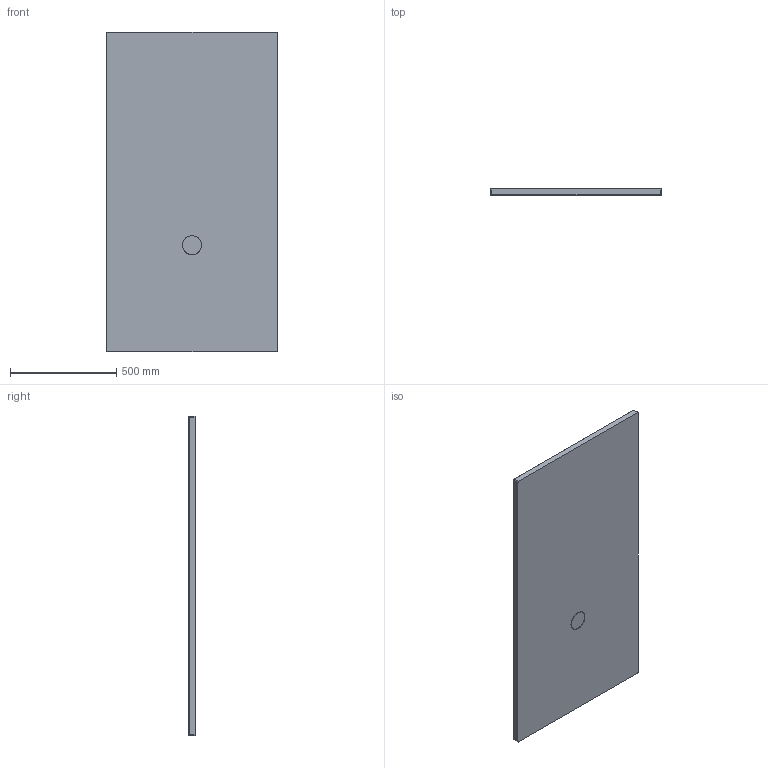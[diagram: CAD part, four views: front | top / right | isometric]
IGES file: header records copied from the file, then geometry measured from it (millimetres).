
Start section: SolidWorks IGES file using analytic representation for surfaces
Global section: file name: D:\Users\M.Szymanski\Desktop\Brodziki\Nias\B_M_NIAS_150x80x1,5.IGS; native system: SolidWorks 2011; preprocessor: SolidWorks 2011; author: M.Szymanski; date: 180222.142351; units: millimetre
Bounding box: 800 x 30 x 1500 mm (x, y, z)
Surface area: 2556452.5 mm2 (no closed solid volume)
Topology: 0 solids, 0 shells, 45 faces, 670 edges, 669 vertices
Faces by surface type: bspline 25, revolution 20
